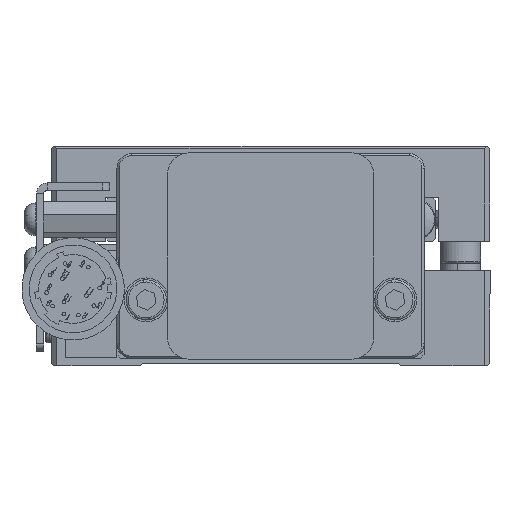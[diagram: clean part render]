
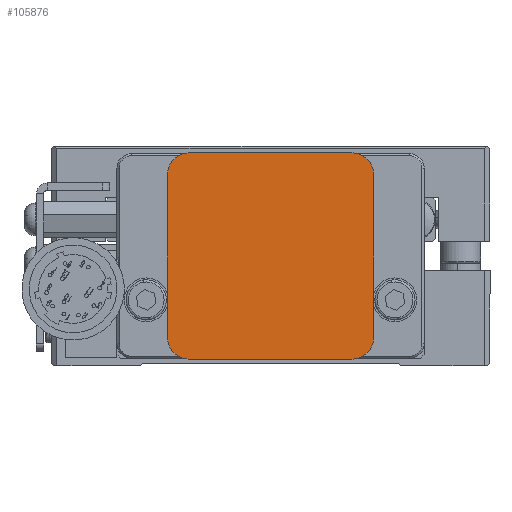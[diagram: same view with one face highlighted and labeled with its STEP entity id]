
A CAD part, front view. The second image highlights one B-rep face of the part: STEP entity #105876.
In plain terms, the highlighted planar face has unit normal (0, -1, 0).
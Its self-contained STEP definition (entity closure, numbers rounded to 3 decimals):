
#881 = ORIENTED_EDGE ( 'NONE', *, *, #115169, .F. ) ;
#979 = ORIENTED_EDGE ( 'NONE', *, *, #37057, .F. ) ;
#2431 = ORIENTED_EDGE ( 'NONE', *, *, #76130, .T. ) ;
#8566 = VERTEX_POINT ( 'NONE', #91222 ) ;
#9308 = DIRECTION ( 'NONE',  ( -1., 0., 0. ) ) ;
#11267 = VECTOR ( 'NONE', #59769, 1000. ) ;
#11500 = CARTESIAN_POINT ( 'NONE',  ( -14.1, -133., 0.9 ) ) ;
#12125 = CARTESIAN_POINT ( 'NONE',  ( -14.1, -133., 3.9 ) ) ;
#14186 = CARTESIAN_POINT ( 'NONE',  ( -14.1, -133., 0.9 ) ) ;
#18487 = CARTESIAN_POINT ( 'NONE',  ( 14.1, -133., 3.9 ) ) ;
#20837 = VECTOR ( 'NONE', #139417, 1000. ) ;
#21126 = CIRCLE ( 'NONE', #23489, 3. ) ;
#21816 = VERTEX_POINT ( 'NONE', #18487 ) ;
#23489 = AXIS2_PLACEMENT_3D ( 'NONE', #65407, #42966, #88651 ) ;
#24504 = AXIS2_PLACEMENT_3D ( 'NONE', #127575, #36872, #26359 ) ;
#26359 = DIRECTION ( 'NONE',  ( 0., 0., -1. ) ) ;
#28259 = VERTEX_POINT ( 'NONE', #12125 ) ;
#29388 = ORIENTED_EDGE ( 'NONE', *, *, #103421, .T. ) ;
#30104 = CARTESIAN_POINT ( 'NONE',  ( 11.1, -133., 29.1 ) ) ;
#31109 = CARTESIAN_POINT ( 'NONE',  ( -14.1, -133., 26.1 ) ) ;
#31622 = CARTESIAN_POINT ( 'NONE',  ( -11.1, -133., 26.1 ) ) ;
#32091 = AXIS2_PLACEMENT_3D ( 'NONE', #134428, #100615, #42940 ) ;
#32359 = PLANE ( 'NONE',  #89774 ) ;
#33179 = ORIENTED_EDGE ( 'NONE', *, *, #84225, .F. ) ;
#35558 = EDGE_CURVE ( 'NONE', #28259, #8566, #127908, .T. ) ;
#36872 = DIRECTION ( 'NONE',  ( 0., -1., 0. ) ) ;
#37057 = EDGE_CURVE ( 'NONE', #28259, #51389, #116791, .T. ) ;
#37413 = ORIENTED_EDGE ( 'NONE', *, *, #120763, .F. ) ;
#42940 = DIRECTION ( 'NONE',  ( 0., 0., -1. ) ) ;
#42966 = DIRECTION ( 'NONE',  ( 0., -1., 0. ) ) ;
#51389 = VERTEX_POINT ( 'NONE', #31109 ) ;
#59769 = DIRECTION ( 'NONE',  ( 0., 0., 1. ) ) ;
#65407 = CARTESIAN_POINT ( 'NONE',  ( 11.1, -133., 26.1 ) ) ;
#67803 = VECTOR ( 'NONE', #112301, 1000. ) ;
#76130 = EDGE_CURVE ( 'NONE', #122192, #76446, #21126, .T. ) ;
#76446 = VERTEX_POINT ( 'NONE', #30104 ) ;
#77003 = CARTESIAN_POINT ( 'NONE',  ( 14.1, -133., 0.9 ) ) ;
#77025 = CIRCLE ( 'NONE', #24504, 3. ) ;
#77303 = VERTEX_POINT ( 'NONE', #131828 ) ;
#79968 = ORIENTED_EDGE ( 'NONE', *, *, #35558, .T. ) ;
#84225 = EDGE_CURVE ( 'NONE', #77303, #76446, #104813, .T. ) ;
#87966 = CARTESIAN_POINT ( 'NONE',  ( 14.1, -133., 26.1 ) ) ;
#88651 = DIRECTION ( 'NONE',  ( 0., 0., -1. ) ) ;
#89774 = AXIS2_PLACEMENT_3D ( 'NONE', #124544, #113270, #98351 ) ;
#91222 = CARTESIAN_POINT ( 'NONE',  ( -11.1, -133., 0.9 ) ) ;
#98351 = DIRECTION ( 'NONE',  ( -1., 0., 0. ) ) ;
#99776 = DIRECTION ( 'NONE',  ( 0., -1., 0. ) ) ;
#100615 = DIRECTION ( 'NONE',  ( 0., -1., 0. ) ) ;
#103421 = EDGE_CURVE ( 'NONE', #148327, #21816, #77025, .T. ) ;
#104813 = LINE ( 'NONE', #137884, #20837 ) ;
#105876 = ADVANCED_FACE ( 'NONE', ( #135050 ), #32359, .T. ) ;
#111040 = DIRECTION ( 'NONE',  ( 0., 0., -1. ) ) ;
#112301 = DIRECTION ( 'NONE',  ( 0., 0., -1. ) ) ;
#113270 = DIRECTION ( 'NONE',  ( 0., -1., 0. ) ) ;
#115169 = EDGE_CURVE ( 'NONE', #148327, #8566, #148019, .T. ) ;
#115199 = CARTESIAN_POINT ( 'NONE',  ( 11.1, -133., 0.9 ) ) ;
#116791 = LINE ( 'NONE', #14186, #11267 ) ;
#119114 = VECTOR ( 'NONE', #9308, 1000. ) ;
#120763 = EDGE_CURVE ( 'NONE', #122192, #21816, #146908, .T. ) ;
#122192 = VERTEX_POINT ( 'NONE', #87966 ) ;
#124395 = ORIENTED_EDGE ( 'NONE', *, *, #134672, .T. ) ;
#124544 = CARTESIAN_POINT ( 'NONE',  ( 14.1, -133., 29.1 ) ) ;
#127575 = CARTESIAN_POINT ( 'NONE',  ( 11.1, -133., 3.9 ) ) ;
#127908 = CIRCLE ( 'NONE', #32091, 3. ) ;
#131828 = CARTESIAN_POINT ( 'NONE',  ( -11.1, -133., 29.1 ) ) ;
#134428 = CARTESIAN_POINT ( 'NONE',  ( -11.1, -133., 3.9 ) ) ;
#134672 = EDGE_CURVE ( 'NONE', #77303, #51389, #139850, .T. ) ;
#135050 = FACE_OUTER_BOUND ( 'NONE', #135668, .T. ) ;
#135668 = EDGE_LOOP ( 'NONE', ( #979, #79968, #881, #29388, #37413, #2431, #33179, #124395 ) ) ;
#137441 = AXIS2_PLACEMENT_3D ( 'NONE', #31622, #99776, #111040 ) ;
#137884 = CARTESIAN_POINT ( 'NONE',  ( -14.1, -133., 29.1 ) ) ;
#139417 = DIRECTION ( 'NONE',  ( 1., 0., 0. ) ) ;
#139850 = CIRCLE ( 'NONE', #137441, 3. ) ;
#146908 = LINE ( 'NONE', #77003, #67803 ) ;
#148019 = LINE ( 'NONE', #11500, #119114 ) ;
#148327 = VERTEX_POINT ( 'NONE', #115199 ) ;
